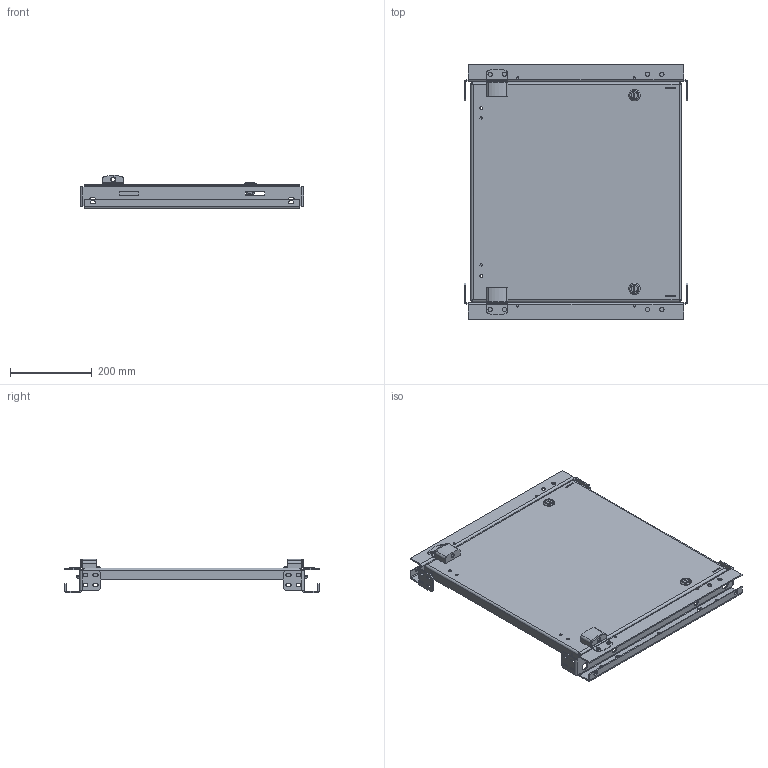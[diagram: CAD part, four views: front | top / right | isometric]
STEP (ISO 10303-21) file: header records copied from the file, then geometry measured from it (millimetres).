
FILE_DESCRIPTION (( 'STEP AP203' ), '1' );
FILE_NAME ('91250.step', '2013-04-03T13:09:22', ( '' ), ( '' ), 'SwSTEP 2.0', 'SolidWorks 2010', '' );
FILE_SCHEMA (( 'CONFIG_CONTROL_DESIGN' ));
Length unit declared in the file: inch
Products named in the file (15): 99411283; 91250; 21458195; 11358726; 11158563_FLEXIBLE; 11158400; 87960060; 87959737; 11458483; 87932262; 87932266; 87956875; 99405822; 11258006; 11258007
Assembly tree (19 placements, depth 5):
  91250
    11358726  x2
    21458195
    11158563_FLEXIBLE
      11158400  x2
        99405822
        11458483
          87932262
          87932266
          87956875
        87960060
          87959737
      99411283  x2
      11258007  x2
      11258006  x2
Bounding box: 547.29 x 623.35 x 82.37 mm (x, y, z)
Volume: 1393737.9 mm3; surface area: 1040012.4 mm2
Topology: 15 solids, 23 shells, 1018 faces, 2648 edges, 1696 vertices
Faces by surface type: plane 540, cylinder 422, bspline 38, cone 18
Entity records: 22210 total; most frequent: CARTESIAN_POINT 6125, ORIENTED_EDGE 2970, DIRECTION 2968, EDGE_CURVE 1488, AXIS2_PLACEMENT_3D 1015, VERTEX_POINT 952, VECTOR 938, LINE 938
